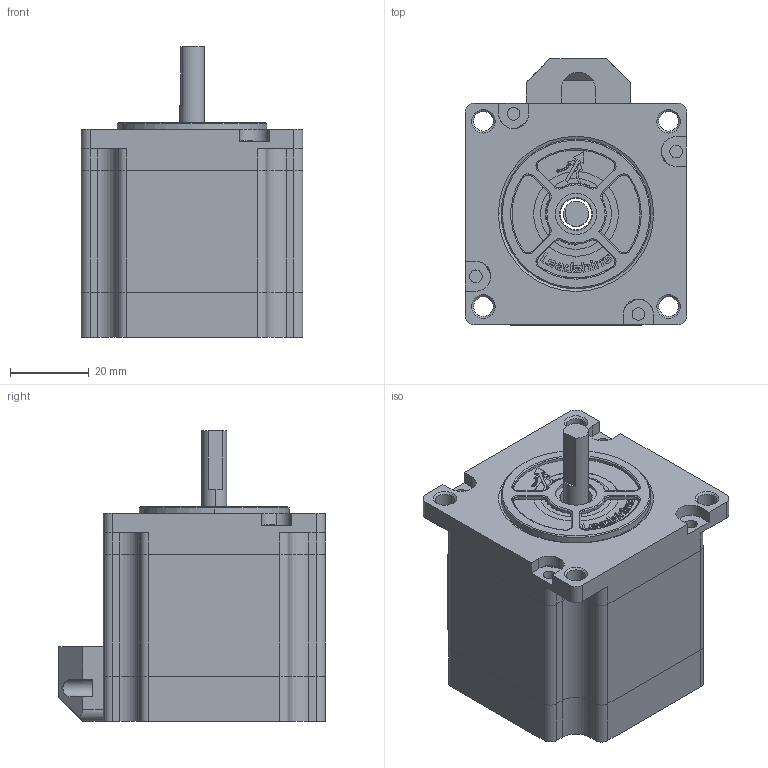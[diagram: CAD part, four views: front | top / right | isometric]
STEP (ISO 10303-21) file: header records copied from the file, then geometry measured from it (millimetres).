
FILE_DESCRIPTION (( 'STEP AP203' ), '1' );
FILE_NAME ('57CM12C.STEP', '2021-04-23T02:04:25', ( 'Owner' ), ( 'Organization' ), 'SwSTEP 2.0', 'SolidWorks 2018', '' );
FILE_SCHEMA (( 'CONFIG_CONTROL_DESIGN' ));
Length unit declared in the file: millimetre
Products named in the file (7): 压线盖（3D)_Default_Default_Default; 1_1_04_EB572-359_3_1_Default_Default; 1_1_02_EB571-152_3_1_Default_Default; 1_2_04_680006_3_1_Default_Default; 57CM12C; 2_3_1_Default_Default; 3_3_1_Default_Default_1
Assembly tree (6 placements, depth 2):
  57CM12C
    1_1_02_EB571-152_3_1_Default_Default
    3_3_1_Default_Default_1
    1_1_04_EB572-359_3_1_Default_Default
    2_3_1_Default_Default
    压线盖（3D)_Default_Default_Default
    1_2_04_680006_3_1_Default_Default
Bounding box: 56.4 x 67.7 x 74 mm (x, y, z)
Volume: 84742.8 mm3; surface area: 43089.1 mm2
Topology: 5 solids, 10 shells, 1231 faces, 3387 edges, 2240 vertices
Faces by surface type: plane 809, cylinder 209, bspline 152, torus 41, cone 20
Entity records: 45111 total; most frequent: CARTESIAN_POINT 13607, ORIENTED_EDGE 6758, DIRECTION 5726, EDGE_CURVE 3387, VECTOR 2526, LINE 2526, VERTEX_POINT 2240, AXIS2_PLACEMENT_3D 1600
